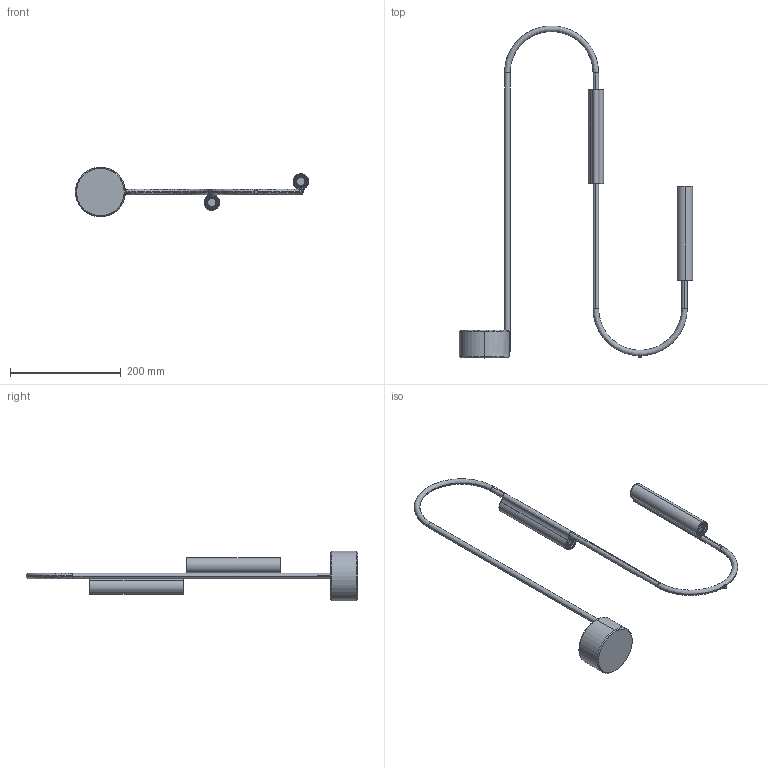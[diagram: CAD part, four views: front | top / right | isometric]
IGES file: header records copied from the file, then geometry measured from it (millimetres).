
Start section: SolidWorks IGES file using analytic representation for surfaces
Global section: file name: C:\Users\Joandita\Dropbox\Rakumba Industrial Design\PRODUCT\2 DEVELOPMENT\POP\CAD\LightWeight CAD\Pop - Table Lamp.IGS; native system: SolidWorks 2017; preprocessor: SolidWorks 2017; author: Joandita; date: 240408.155536; units: millimetre
Bounding box: 421.19 x 599.84 x 90 mm (x, y, z)
Surface area: 191089.5 mm2 (no closed solid volume)
Topology: 0 solids, 0 shells, 406 faces, 6782 edges, 6780 vertices
Faces by surface type: revolution 224, bspline 182
